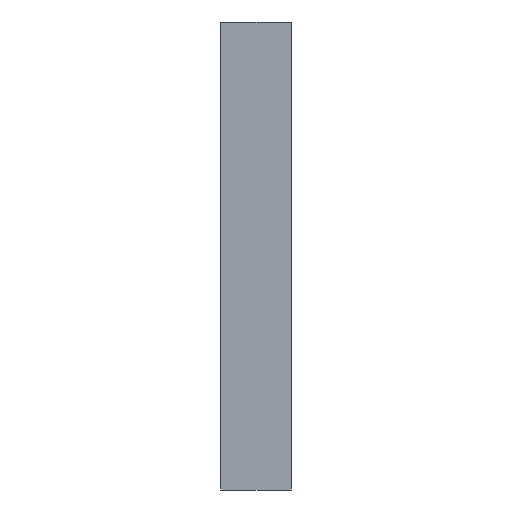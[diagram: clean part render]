
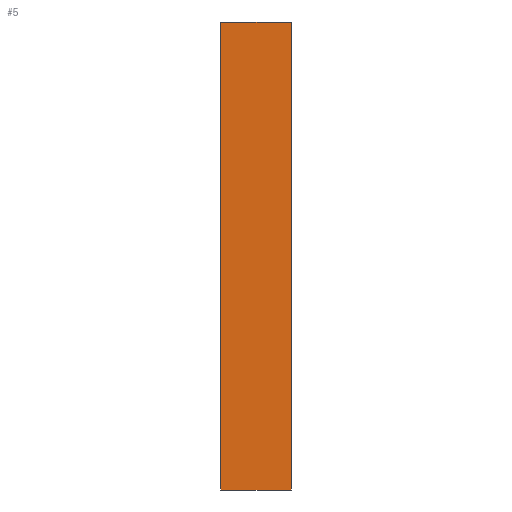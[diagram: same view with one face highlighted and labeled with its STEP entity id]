
A CAD part, left-side view. The second image highlights one B-rep face of the part: STEP entity #5.
In plain terms, the highlighted planar face has unit normal (-1, 0, 0).
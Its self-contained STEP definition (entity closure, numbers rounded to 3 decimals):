
#1 = CARTESIAN_POINT ( 'NONE',  ( -92.5, 0., 10. ) ) ;
#5 = ADVANCED_FACE ( 'NONE', ( #337 ), #175, .T. ) ;
#6 = DIRECTION ( 'NONE',  ( 0., 1., 0. ) ) ;
#14 = CARTESIAN_POINT ( 'NONE',  ( -92.5, -3., 10. ) ) ;
#48 = VERTEX_POINT ( 'NONE', #60 ) ;
#60 = CARTESIAN_POINT ( 'NONE',  ( -92.5, 0., -10. ) ) ;
#62 = CARTESIAN_POINT ( 'NONE',  ( -92.5, 0., 10. ) ) ;
#79 = VERTEX_POINT ( 'NONE', #62 ) ;
#80 = VECTOR ( 'NONE', #97, 1000. ) ;
#81 = VERTEX_POINT ( 'NONE', #167 ) ;
#82 = EDGE_CURVE ( 'NONE', #184, #48, #259, .T. ) ;
#86 = EDGE_CURVE ( 'NONE', #79, #48, #229, .T. ) ;
#89 = DIRECTION ( 'NONE',  ( 0., 0., 1. ) ) ;
#97 = DIRECTION ( 'NONE',  ( 0., 0., -1. ) ) ;
#140 = DIRECTION ( 'NONE',  ( -1., 0., 0. ) ) ;
#159 = ORIENTED_EDGE ( 'NONE', *, *, #261, .T. ) ;
#160 = ORIENTED_EDGE ( 'NONE', *, *, #82, .F. ) ;
#167 = CARTESIAN_POINT ( 'NONE',  ( -92.5, -3., 10. ) ) ;
#170 = EDGE_CURVE ( 'NONE', #81, #184, #333, .T. ) ;
#175 = PLANE ( 'NONE',  #342 ) ;
#184 = VERTEX_POINT ( 'NONE', #358 ) ;
#187 = EDGE_LOOP ( 'NONE', ( #160, #284, #159, #194 ) ) ;
#193 = VECTOR ( 'NONE', #208, 1000. ) ;
#194 = ORIENTED_EDGE ( 'NONE', *, *, #86, .T. ) ;
#208 = DIRECTION ( 'NONE',  ( 0., 1., 0. ) ) ;
#229 = LINE ( 'NONE', #1, #372 ) ;
#231 = CARTESIAN_POINT ( 'NONE',  ( -92.5, -3., -10. ) ) ;
#259 = LINE ( 'NONE', #231, #307 ) ;
#261 = EDGE_CURVE ( 'NONE', #81, #79, #332, .T. ) ;
#284 = ORIENTED_EDGE ( 'NONE', *, *, #170, .F. ) ;
#307 = VECTOR ( 'NONE', #6, 1000. ) ;
#321 = CARTESIAN_POINT ( 'NONE',  ( -92.5, -3., 10. ) ) ;
#332 = LINE ( 'NONE', #14, #193 ) ;
#333 = LINE ( 'NONE', #354, #80 ) ;
#337 = FACE_OUTER_BOUND ( 'NONE', #187, .T. ) ;
#342 = AXIS2_PLACEMENT_3D ( 'NONE', #321, #140, #89 ) ;
#349 = DIRECTION ( 'NONE',  ( 0., 0., -1. ) ) ;
#354 = CARTESIAN_POINT ( 'NONE',  ( -92.5, -3., 10. ) ) ;
#358 = CARTESIAN_POINT ( 'NONE',  ( -92.5, -3., -10. ) ) ;
#372 = VECTOR ( 'NONE', #349, 1000. ) ;
